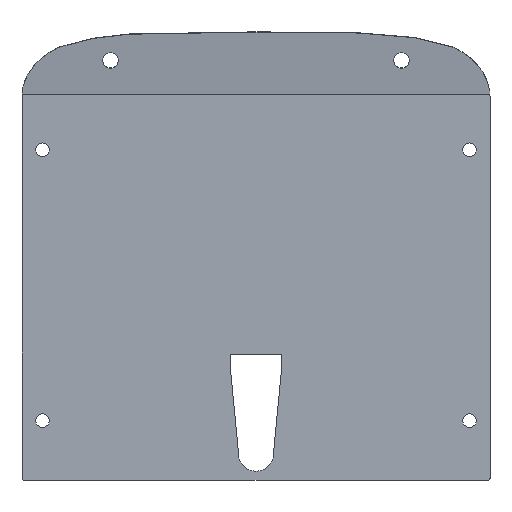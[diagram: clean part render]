
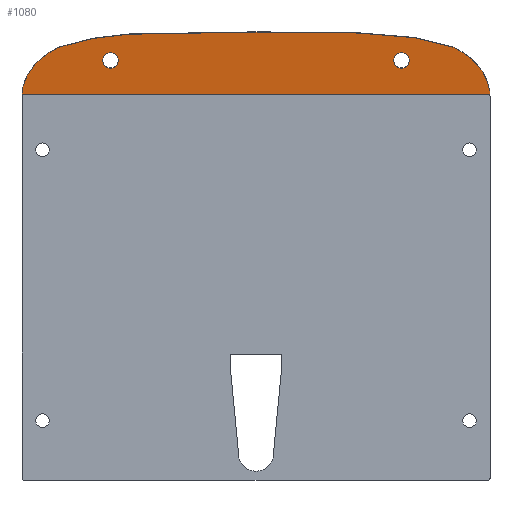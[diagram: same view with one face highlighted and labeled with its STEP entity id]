
A CAD part, top view. The second image highlights one B-rep face of the part: STEP entity #1080.
In plain terms, the highlighted planar face has unit normal (0, -0.112, 0.994).
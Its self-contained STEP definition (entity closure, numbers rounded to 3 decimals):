
#5 = CARTESIAN_POINT ( 'NONE',  ( 100.991, 191.522, 3.718 ) ) ;
#26 = CARTESIAN_POINT ( 'NONE',  ( 74.6, 184.757, 2.953 ) ) ;
#42 = VERTEX_POINT ( 'NONE', #454 ) ;
#51 = CARTESIAN_POINT ( 'NONE',  ( -119.328, 177.546, 2.138 ) ) ;
#64 = CARTESIAN_POINT ( 'NONE',  ( -22.647, 199.264, 4.593 ) ) ;
#76 = CARTESIAN_POINT ( 'NONE',  ( -99.423, 192.043, 3.776 ) ) ;
#81 = CARTESIAN_POINT ( 'NONE',  ( 119.325, 177.583, 2.142 ) ) ;
#82 = VERTEX_POINT ( 'NONE', #361 ) ;
#83 =( BOUNDED_CURVE ( )  B_SPLINE_CURVE ( 3, ( #1235, #81, #1122, #1494 ),
 .UNSPECIFIED., .F., .F. ) 
 B_SPLINE_CURVE_WITH_KNOTS ( ( 4, 4 ),
 ( 3.188, 4.16 ),
 .UNSPECIFIED. ) 
 CURVE ( )  GEOMETRIC_REPRESENTATION_ITEM ( )  RATIONAL_B_SPLINE_CURVE ( ( 1., 0.923, 0.923, 1. ) ) 
 REPRESENTATION_ITEM ( '' )  );
#95 = DIRECTION ( 'NONE',  ( -1., 0., 0. ) ) ;
#99 = ORIENTED_EDGE ( 'NONE', *, *, #1462, .F. ) ;
#103 = EDGE_CURVE ( 'NONE', #464, #1458, #381, .T. ) ;
#111 = DIRECTION ( 'NONE',  ( 1., 0., 0. ) ) ;
#122 = CARTESIAN_POINT ( 'NONE',  ( 97.477, 192.759, 3.857 ) ) ;
#132 = CARTESIAN_POINT ( 'NONE',  ( 93.377, 193.909, 3.987 ) ) ;
#138 = CARTESIAN_POINT ( 'NONE',  ( 88.691, 194.974, 4.108 ) ) ;
#142 = EDGE_CURVE ( 'NONE', #615, #208, #528, .T. ) ;
#178 = DIRECTION ( 'NONE',  ( 0., -0.112, 0.994 ) ) ;
#186 = EDGE_CURVE ( 'NONE', #82, #1079, #1017, .T. ) ;
#188 = CARTESIAN_POINT ( 'NONE',  ( 119.956, 167.54, 1.006 ) ) ;
#199 = EDGE_CURVE ( 'NONE', #1079, #82, #240, .T. ) ;
#204 = CARTESIAN_POINT ( 'NONE',  ( -95.369, 193.376, 3.927 ) ) ;
#205 = ORIENTED_EDGE ( 'NONE', *, *, #433, .T. ) ;
#208 = VERTEX_POINT ( 'NONE', #806 ) ;
#226 = EDGE_LOOP ( 'NONE', ( #1246, #780 ) ) ;
#227 = CARTESIAN_POINT ( 'NONE',  ( -74.6, 184.757, 2.953 ) ) ;
#240 = CIRCLE ( 'NONE', #367, 4. ) ;
#297 = CARTESIAN_POINT ( 'NONE',  ( -119.956, 167.54, 1.006 ) ) ;
#306 = CARTESIAN_POINT ( 'NONE',  ( -76.817, 197.084, 4.346 ) ) ;
#312 = CARTESIAN_POINT ( 'NONE',  ( 58.189, 198.564, 4.514 ) ) ;
#321 = EDGE_LOOP ( 'NONE', ( #943, #99 ) ) ;
#323 = DIRECTION ( 'NONE',  ( 0., 0.112, -0.994 ) ) ;
#361 = CARTESIAN_POINT ( 'NONE',  ( 78.6, 184.757, 2.953 ) ) ;
#364 = CARTESIAN_POINT ( 'NONE',  ( -74.6, 184.757, 2.953 ) ) ;
#367 = AXIS2_PLACEMENT_3D ( 'NONE', #26, #1418, #1165 ) ;
#381 = B_SPLINE_CURVE_WITH_KNOTS ( 'NONE', 3,
 ( #5, #122, #132, #138, #466, #1281, #578, #1523, #931, #312, #1411, #810, #1503, #912, #1262, #693 ),
 .UNSPECIFIED., .F., .F.,
 ( 4, 3, 3, 3, 3, 4 ),
 ( 0., 0.113, 0.238, 0.363, 0.488, 0.613 ),
 .UNSPECIFIED. ) ;
#382 = CARTESIAN_POINT ( 'NONE',  ( 80., 167.54, 1.006 ) ) ;
#416 = ORIENTED_EDGE ( 'NONE', *, *, #1100, .T. ) ;
#419 = CARTESIAN_POINT ( 'NONE',  ( -39.009, 199.133, 4.578 ) ) ;
#423 = B_SPLINE_CURVE_WITH_KNOTS ( 'NONE', 3,
 ( #522, #64, #419, #543, #1369, #886, #306, #1103, #638, #997, #763, #204, #76, #993, #1111, #1481 ),
 .UNSPECIFIED., .F., .F.,
 ( 4, 3, 3, 3, 3, 4 ),
 ( 0.24, 0.49, 0.74, 0.865, 0.99, 1. ),
 .UNSPECIFIED. ) ;
#433 = EDGE_CURVE ( 'NONE', #649, #892, #856, .T. ) ;
#454 = CARTESIAN_POINT ( 'NONE',  ( -101.105, 191.469, 3.712 ) ) ;
#458 = CARTESIAN_POINT ( 'NONE',  ( 100.991, 191.522, 3.718 ) ) ;
#462 = ORIENTED_EDGE ( 'NONE', *, *, #1250, .T. ) ;
#464 = VERTEX_POINT ( 'NONE', #458 ) ;
#466 = CARTESIAN_POINT ( 'NONE',  ( 84.318, 195.968, 4.22 ) ) ;
#522 = CARTESIAN_POINT ( 'NONE',  ( 0., 199.265, 4.593 ) ) ;
#525 = CARTESIAN_POINT ( 'NONE',  ( -112.523, 186.184, 3.114 ) ) ;
#528 = CIRCLE ( 'NONE', #1308, 4. ) ;
#543 = CARTESIAN_POINT ( 'NONE',  ( -49.086, 198.874, 4.549 ) ) ;
#547 = VECTOR ( 'NONE', #1295, 1000. ) ;
#560 = FACE_BOUND ( 'NONE', #226, .T. ) ;
#578 = CARTESIAN_POINT ( 'NONE',  ( 75.39, 197.267, 4.367 ) ) ;
#615 = VERTEX_POINT ( 'NONE', #740 ) ;
#631 = ORIENTED_EDGE ( 'NONE', *, *, #880, .T. ) ;
#638 = CARTESIAN_POINT ( 'NONE',  ( -83.012, 196.17, 4.243 ) ) ;
#642 = CARTESIAN_POINT ( 'NONE',  ( -119.956, 167.54, 1.006 ) ) ;
#649 = VERTEX_POINT ( 'NONE', #297 ) ;
#655 = DIRECTION ( 'NONE',  ( 0., -0.112, 0.994 ) ) ;
#669 = CARTESIAN_POINT ( 'NONE',  ( 74.6, 184.757, 2.953 ) ) ;
#693 = CARTESIAN_POINT ( 'NONE',  ( 0., 199.265, 4.593 ) ) ;
#734 = FACE_BOUND ( 'NONE', #321, .T. ) ;
#740 = CARTESIAN_POINT ( 'NONE',  ( -78.6, 184.757, 2.953 ) ) ;
#763 = CARTESIAN_POINT ( 'NONE',  ( -90.89, 194.548, 4.06 ) ) ;
#780 = ORIENTED_EDGE ( 'NONE', *, *, #186, .F. ) ;
#784 = CARTESIAN_POINT ( 'NONE',  ( 80., 164.159, 0.624 ) ) ;
#790 = CIRCLE ( 'NONE', #1470, 4. ) ;
#806 = CARTESIAN_POINT ( 'NONE',  ( -70.6, 184.757, 2.953 ) ) ;
#810 = CARTESIAN_POINT ( 'NONE',  ( 42.977, 199.049, 4.569 ) ) ;
#856 = LINE ( 'NONE', #382, #547 ) ;
#880 = EDGE_CURVE ( 'NONE', #1458, #42, #423, .T. ) ;
#886 = CARTESIAN_POINT ( 'NONE',  ( -69.871, 197.98, 4.448 ) ) ;
#892 = VERTEX_POINT ( 'NONE', #188 ) ;
#902 = DIRECTION ( 'NONE',  ( 1., 0., 0. ) ) ;
#912 = CARTESIAN_POINT ( 'NONE',  ( 23.995, 199.226, 4.589 ) ) ;
#931 = CARTESIAN_POINT ( 'NONE',  ( 64.875, 198.269, 4.48 ) ) ;
#943 = ORIENTED_EDGE ( 'NONE', *, *, #142, .F. ) ;
#993 = CARTESIAN_POINT ( 'NONE',  ( -99.999, 191.854, 3.755 ) ) ;
#997 = CARTESIAN_POINT ( 'NONE',  ( -85.986, 195.558, 4.174 ) ) ;
#1014 = AXIS2_PLACEMENT_3D ( 'NONE', #669, #1266, #111 ) ;
#1017 = CIRCLE ( 'NONE', #1014, 4. ) ;
#1079 = VERTEX_POINT ( 'NONE', #1427 ) ;
#1080 = ADVANCED_FACE ( 'NONE', ( #734, #560, #1379 ), #1132, .F. ) ;
#1100 = EDGE_CURVE ( 'NONE', #892, #464, #83, .T. ) ;
#1103 = CARTESIAN_POINT ( 'NONE',  ( -79.956, 196.679, 4.301 ) ) ;
#1111 = CARTESIAN_POINT ( 'NONE',  ( -100.56, 191.662, 3.733 ) ) ;
#1122 = CARTESIAN_POINT ( 'NONE',  ( 112.475, 186.245, 3.121 ) ) ;
#1132 = PLANE ( 'NONE',  #1386 ) ;
#1139 = EDGE_LOOP ( 'NONE', ( #462, #205, #416, #1403, #631 ) ) ;
#1165 = DIRECTION ( 'NONE',  ( 1., 0., 0. ) ) ;
#1214 = CARTESIAN_POINT ( 'NONE',  ( -101.105, 191.469, 3.712 ) ) ;
#1235 = CARTESIAN_POINT ( 'NONE',  ( 119.956, 167.54, 1.006 ) ) ;
#1246 = ORIENTED_EDGE ( 'NONE', *, *, #199, .F. ) ;
#1250 = EDGE_CURVE ( 'NONE', #42, #649, #1326, .T. ) ;
#1262 = CARTESIAN_POINT ( 'NONE',  ( 13.243, 199.265, 4.593 ) ) ;
#1266 = DIRECTION ( 'NONE',  ( 0., -0.112, 0.994 ) ) ;
#1281 = CARTESIAN_POINT ( 'NONE',  ( 79.884, 196.732, 4.307 ) ) ;
#1295 = DIRECTION ( 'NONE',  ( 1., 0., 0. ) ) ;
#1308 = AXIS2_PLACEMENT_3D ( 'NONE', #227, #655, #902 ) ;
#1326 =( BOUNDED_CURVE ( )  B_SPLINE_CURVE ( 3, ( #1214, #525, #51, #642 ),
 .UNSPECIFIED., .F., .F. ) 
 B_SPLINE_CURVE_WITH_KNOTS ( ( 4, 4 ),
 ( 2.127, 3.095 ),
 .UNSPECIFIED. ) 
 CURVE ( )  GEOMETRIC_REPRESENTATION_ITEM ( )  RATIONAL_B_SPLINE_CURVE ( ( 1., 0.923, 0.923, 1. ) ) 
 REPRESENTATION_ITEM ( '' )  );
#1369 = CARTESIAN_POINT ( 'NONE',  ( -60.627, 198.576, 4.515 ) ) ;
#1379 = FACE_OUTER_BOUND ( 'NONE', #1139, .T. ) ;
#1386 = AXIS2_PLACEMENT_3D ( 'NONE', #784, #323, #95 ) ;
#1403 = ORIENTED_EDGE ( 'NONE', *, *, #103, .T. ) ;
#1411 = CARTESIAN_POINT ( 'NONE',  ( 51.621, 198.854, 4.546 ) ) ;
#1418 = DIRECTION ( 'NONE',  ( 0., -0.112, 0.994 ) ) ;
#1424 = CARTESIAN_POINT ( 'NONE',  ( 0., 199.265, 4.593 ) ) ;
#1427 = CARTESIAN_POINT ( 'NONE',  ( 70.6, 184.757, 2.953 ) ) ;
#1458 = VERTEX_POINT ( 'NONE', #1424 ) ;
#1461 = DIRECTION ( 'NONE',  ( 1., 0., 0. ) ) ;
#1462 = EDGE_CURVE ( 'NONE', #208, #615, #790, .T. ) ;
#1470 = AXIS2_PLACEMENT_3D ( 'NONE', #364, #178, #1461 ) ;
#1481 = CARTESIAN_POINT ( 'NONE',  ( -101.105, 191.469, 3.712 ) ) ;
#1494 = CARTESIAN_POINT ( 'NONE',  ( 100.991, 191.522, 3.718 ) ) ;
#1503 = CARTESIAN_POINT ( 'NONE',  ( 32.258, 199.149, 4.58 ) ) ;
#1523 = CARTESIAN_POINT ( 'NONE',  ( 70.609, 197.837, 4.431 ) ) ;
